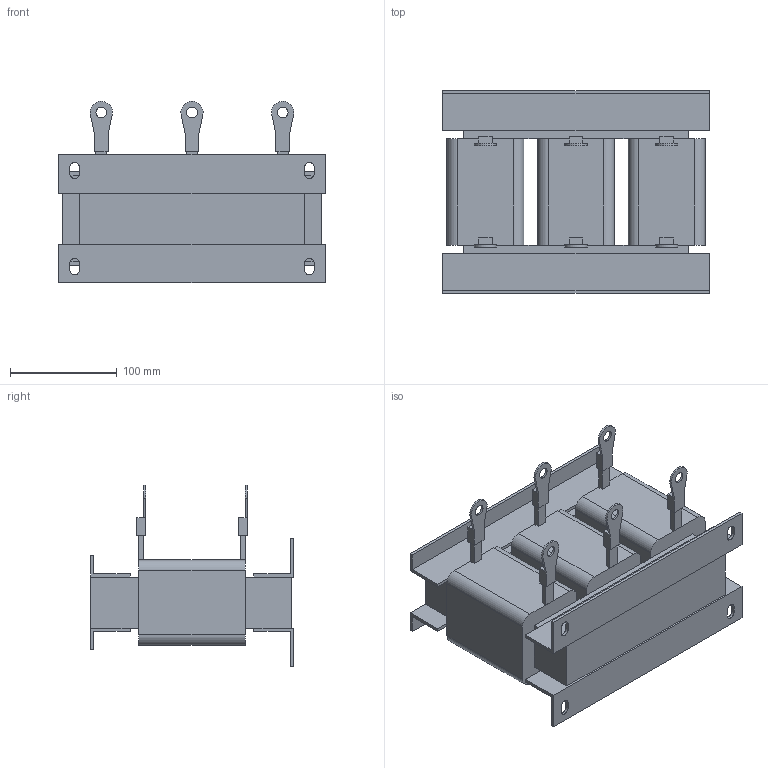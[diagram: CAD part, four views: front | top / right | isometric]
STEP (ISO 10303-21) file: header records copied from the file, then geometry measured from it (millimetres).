
FILE_DESCRIPTION(/* description */ (''),/* implementation_level */ '2;1');
FILE_NAME(/* name */ 'ACO-C-0063-T6.stp',/* time_stamp */ '2025-01-15T07:47:15+04:00',/* author */ ('Александр (огранич)'),/* organization */ (''),/* preprocessor_version */ 'ST-DEVELOPER v19.2',/* originating_system */ 'Autodesk Inventor 2024',/* authorisation */ '');
FILE_SCHEMA (('AUTOMOTIVE_DESIGN { 1 0 10303 214 3 1 1 }'));
Length unit declared in the file: millimetre
Products named in the file (1): ACO-0015-T4-4
Bounding box: 250 x 190 x 169.96 mm (x, y, z)
Volume: 2797164.8 mm3; surface area: 288861 mm2
Topology: 15 solids, 15 shells, 196 faces, 478 edges, 308 vertices
Faces by surface type: plane 164, cylinder 32
Full cylindrical faces by diameter (mm): 10 x6
Entity records: 5727 total; most frequent: CARTESIAN_POINT 983, ORIENTED_EDGE 956, DIRECTION 936, EDGE_CURVE 478, LINE 414, VECTOR 414, VERTEX_POINT 308, AXIS2_PLACEMENT_3D 261
